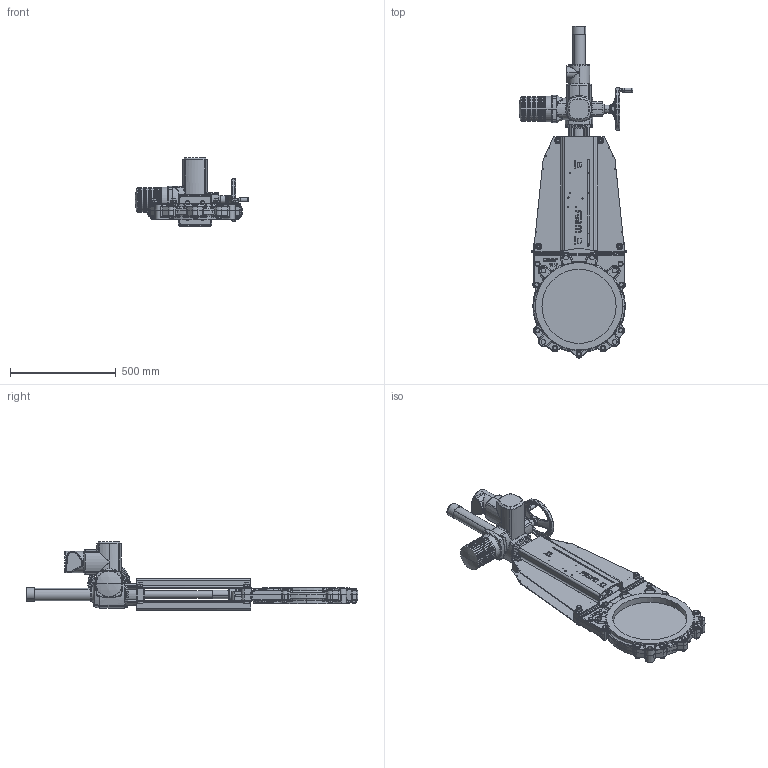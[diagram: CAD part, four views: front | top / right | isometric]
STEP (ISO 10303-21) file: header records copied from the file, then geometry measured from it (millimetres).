
FILE_DESCRIPTION (( 'STEP AP214' ), '1' );
FILE_NAME ('VSE DN 0350.STEP', '2015-09-23T11:21:54', ( 'admin' ), ( 'Hewlett-Packard Company' ), 'SwSTEP 2.0', 'SolidWorks 2013', '' );
FILE_SCHEMA (( 'AUTOMOTIVE_DESIGN' ));
Length unit declared in the file: millimetre
Products named in the file (1): VSE DN 0350
Bounding box: 537 x 1566.43 x 322 mm (x, y, z)
Volume: 20426270.6 mm3; surface area: 2467550.6 mm2
Topology: 75 solids, 79 shells, 3771 faces, 8928 edges, 5230 vertices
Faces by surface type: plane 1170, cylinder 1067, bspline 635, cone 541, torus 320, sphere 38
Entity records: 182024 total; most frequent: CARTESIAN_POINT 57690, ORIENTED_EDGE 17472, DIRECTION 16696, EDGE_CURVE 8736, AXIS2_PLACEMENT_3D 6775, VERTEX_POINT 5230, EDGE_LOOP 4130, UNCERTAINTY_MEASURE_WITH_UNIT 3846
